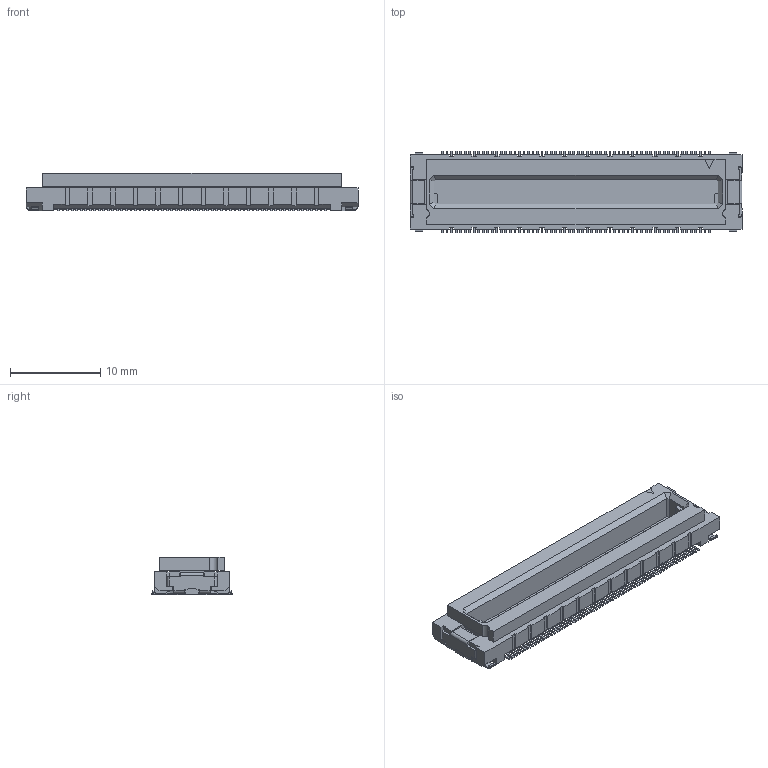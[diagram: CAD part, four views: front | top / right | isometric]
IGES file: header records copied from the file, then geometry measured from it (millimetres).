
Start section: Elysium IGES Interface
Global section: file name: 130HG:\その他\DY関連\CAD\（作り直し）Webリニューアル対応\DY00-XXXS     _(STEP／IGES形式_回覧No.56-36-0002)\①IGES\P39563_DY00-120S.igs; native system: Creo Elements/Direct Modeling 19.0F  14-Feb-2017; preprocessor: Creo Element/Direct IGES_3D V2.2; author: Unknown; organization: Unknown; date: 20170810.141859; units: millimetre
Bounding box: 36.7 x 9 x 4.2 mm (x, y, z)
Volume: 765.3 mm3; surface area: 1654.5 mm2
Topology: 1 solids, 1 shells, 3605 faces, 10071 edges, 6710 vertices
Faces by surface type: bspline 3605
